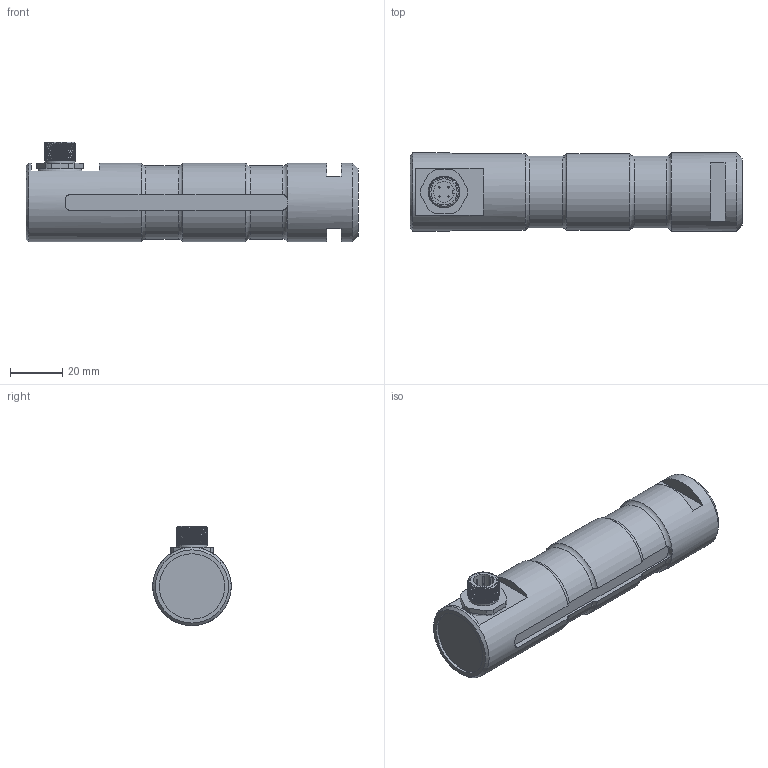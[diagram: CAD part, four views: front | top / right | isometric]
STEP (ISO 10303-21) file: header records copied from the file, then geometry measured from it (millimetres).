
FILE_DESCRIPTION(/* description */ ('Alibre Inc.'),/* implementation_level */ '2;1');
FILE_NAME(/* name */ 'export0',/* time_stamp */ '2013-04-16T11:15:20+02:00',/* author */ (''),/* organization */ (''),/* preprocessor_version */ 'ST-DEVELOPER v14',/* originating_system */ 'Alibre',/* authorisation */ '');
FILE_SCHEMA (('CONFIG_CONTROL_DESIGN'));
Length unit declared in the file: centimetre
Products named in the file (6): ID_1
Bounding box: 127 x 30 x 38 mm (x, y, z)
Volume: 82816.9 mm3; surface area: 17902.6 mm2
Topology: 8 solids, 8 shells, 154 faces, 345 edges, 215 vertices
Faces by surface type: plane 64, cylinder 52, bspline 23, torus 9, cone 6
Full cylindrical faces by diameter (mm): 0.5 x8, 8 x2, 10 x4, 11.5 x1, 13 x1, 14.376 x1, 25 x1, 30 x2
Entity records: 14763 total; most frequent: CARTESIAN_POINT 11436, ORIENTED_EDGE 618, DIRECTION 400, EDGE_CURVE 304, VERTEX_POINT 203, FACE_BOUND 198, EDGE_LOOP 197, AXIS2_PLACEMENT_3D 179
